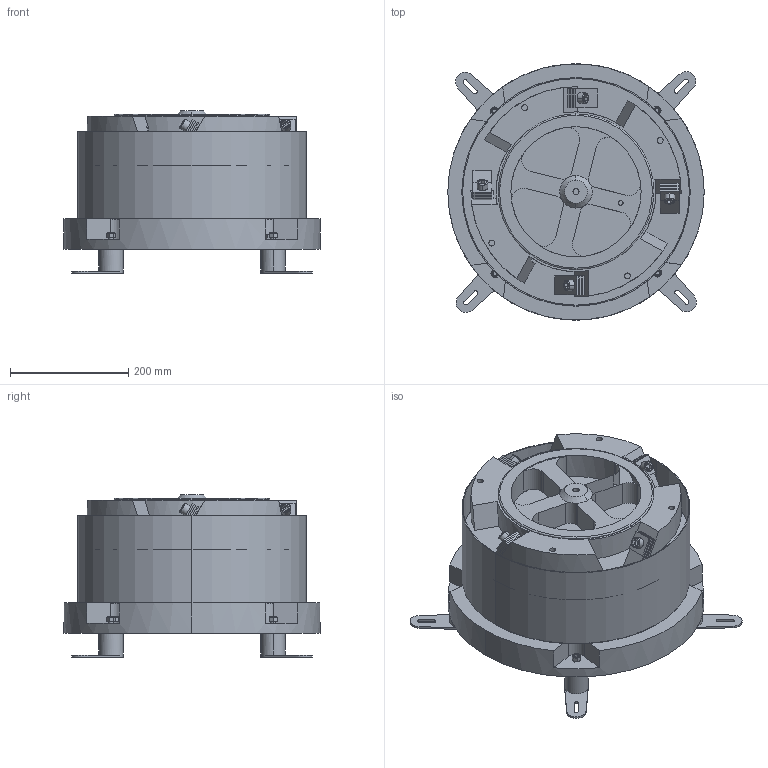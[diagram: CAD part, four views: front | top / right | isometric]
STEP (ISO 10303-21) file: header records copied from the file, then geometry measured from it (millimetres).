
FILE_DESCRIPTION(/* description */ (''),/* implementation_level */ '2;1');
FILE_NAME(/* name */ 'DE400 短片 铝盖.stp',/* time_stamp */ '2025-07-17T21:03:09+08:00',/* author */ (''),/* organization */ (''),/* preprocessor_version */ 'ST-DEVELOPER v18.102',/* originating_system */ 'SIEMENS PLM Software NX2206.1700',/* authorisation */ '');
FILE_SCHEMA (('AP203_CONFIGURATION_CONTROLLED_3D_DESIGN_OF_MECHANICAL_PARTS_AND_ASSEMBLIES_MIM_LF { 1 0 10303 403 2 1 2}'));
Length unit declared in the file: millimetre
Products named in the file (1): DE400  短片 铝盖2023_step_objects
Bounding box: 433 x 433 x 274 mm (x, y, z)
Volume: 17225264.9 mm3; surface area: 1275996.8 mm2
Topology: 38 solids, 38 shells, 667 faces, 1583 edges, 1010 vertices
Faces by surface type: plane 334, cylinder 211, cone 95, torus 27
Entity records: 21041 total; most frequent: CARTESIAN_POINT 4955, DIRECTION 3380, ORIENTED_EDGE 3150, EDGE_CURVE 1575, AXIS2_PLACEMENT_3D 1283, VERTEX_POINT 1010, LINE 814, VECTOR 814
